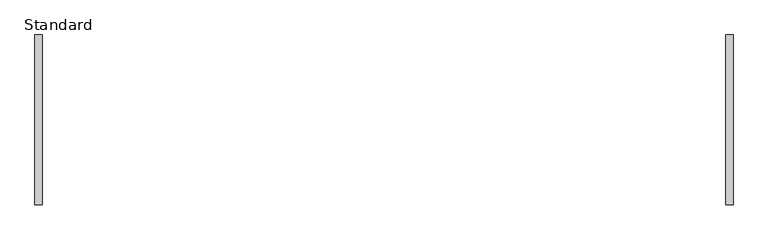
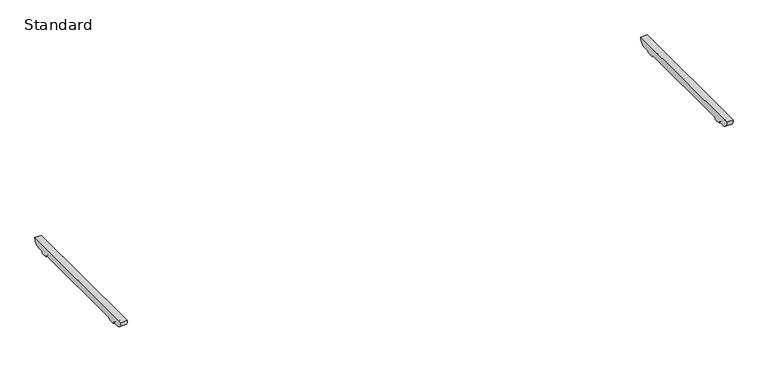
"""IFC4 building model written with IfcOpenShell, lengths in millimetres: furniture geometry, BDG_BossDesign_Tbls_AgentTables4Legs_Nested : Standard."""

from ifc_helpers import new_model, si_unit, point, frame, frame_2d, origin, place, context, project, spatial, polyline, circle_curve, trimmed, segment, composite_curve, outline, extrude, source, transform, mapped, element, save


def standard_a5c8d3ff(model_context):
    return source(origin(), model_context, "Body", "SweptSolid", [
        extrude(outline(composite_curve([segment(polyline([(480.5450184, 672.0), (442.7000122, 672.0)]), True, "CONTINUOUS"), segment(trimmed(circle_curve(frame_2d((442.7000122, 660.0)), 12.0), [point((442.7000122, 672.0))], [point((430.7000122, 660.0))], True, "CARTESIAN"), True, "CONTINUOUS"), segment(polyline([(430.7000122, 660.0), (385.7000122, 660.0)]), True, "CONTINUOUS"), segment(trimmed(circle_curve(frame_2d((373.7000122, 660.0)), 12.0), [point((385.7000122, 660.0))], [point((373.7000122, 672.0))], True, "CARTESIAN"), True, "CONTINUOUS"), segment(polyline([(373.7000122, 672.0), (-373.7000122, 672.0)]), True, "CONTINUOUS"), segment(trimmed(circle_curve(frame_2d((-373.7000122, 660.0)), 12.0), [point((-373.7000122, 672.0))], [point((-385.7000122, 660.0))], True, "CARTESIAN"), True, "CONTINUOUS"), segment(polyline([(-385.7000122, 660.0), (-430.7000122, 660.0)]), True, "CONTINUOUS"), segment(trimmed(circle_curve(frame_2d((-442.7000122, 660.0)), 12.0), [point((-430.7000122, 660.0))], [point((-442.7000122, 672.0))], True, "CARTESIAN"), True, "CONTINUOUS"), segment(polyline([(-442.7000122, 672.0), (-480.5450184, 672.0)]), True, "CONTINUOUS"), segment(trimmed(circle_curve(frame_2d((-478.2220439, 716.5514119)), 44.6119324), [point((-480.5450184, 672.0))], [point((-522.5, 722.0))], False, "CARTESIAN"), True, "CONTINUOUS"), segment(polyline([(-522.5, 722.0), (522.5, 722.0)]), True, "CONTINUOUS"), segment(trimmed(circle_curve(frame_2d((478.2220439, 716.5514119)), 44.6119324), [point((522.5, 722.0))], [point((480.5450184, 672.0))], False, "CARTESIAN"), True, "CONTINUOUS")], self_intersect=False)), frame((2105.0, 0.0, 0.0), z_axis=(1.0, 0.0, 0.0), x_axis=(0.0, 1.0, 0.0)), (0.0, 0.0, 1.0), 45.0),
        extrude(outline(composite_curve([segment(polyline([(480.5450184, 672.0), (442.7000122, 672.0)]), True, "CONTINUOUS"), segment(trimmed(circle_curve(frame_2d((442.7000122, 660.0)), 12.0), [point((442.7000122, 672.0))], [point((430.7000122, 660.0))], True, "CARTESIAN"), True, "CONTINUOUS"), segment(polyline([(430.7000122, 660.0), (385.7000122, 660.0)]), True, "CONTINUOUS"), segment(trimmed(circle_curve(frame_2d((373.7000122, 660.0)), 12.0), [point((385.7000122, 660.0))], [point((373.7000122, 672.0))], True, "CARTESIAN"), True, "CONTINUOUS"), segment(polyline([(373.7000122, 672.0), (-373.7000122, 672.0)]), True, "CONTINUOUS"), segment(trimmed(circle_curve(frame_2d((-373.7000122, 660.0)), 12.0), [point((-373.7000122, 672.0))], [point((-385.7000122, 660.0))], True, "CARTESIAN"), True, "CONTINUOUS"), segment(polyline([(-385.7000122, 660.0), (-430.7000122, 660.0)]), True, "CONTINUOUS"), segment(trimmed(circle_curve(frame_2d((-442.7000122, 660.0)), 12.0), [point((-430.7000122, 660.0))], [point((-442.7000122, 672.0))], True, "CARTESIAN"), True, "CONTINUOUS"), segment(polyline([(-442.7000122, 672.0), (-480.5450184, 672.0)]), True, "CONTINUOUS"), segment(trimmed(circle_curve(frame_2d((-478.2220439, 716.5514119)), 44.6119324), [point((-480.5450184, 672.0))], [point((-522.5, 722.0))], False, "CARTESIAN"), True, "CONTINUOUS"), segment(polyline([(-522.5, 722.0), (522.5, 722.0)]), True, "CONTINUOUS"), segment(trimmed(circle_curve(frame_2d((478.2220439, 716.5514119)), 44.6119324), [point((522.5, 722.0))], [point((480.5450184, 672.0))], False, "CARTESIAN"), True, "CONTINUOUS")], self_intersect=False)), frame((-2150.0, 0.0, 0.0), z_axis=(1.0, 0.0, 0.0), x_axis=(0.0, 1.0, 0.0)), (0.0, 0.0, 1.0), 45.0),
    ])


if __name__ == "__main__":
    model = new_model("IFC4")
    model_context = context("Model", 3, world=origin())
    ifc_project = project(units=[si_unit("LENGTHUNIT", "METRE", prefix="MILLI")], contexts=[model_context])
    site = spatial("IfcSite", under=ifc_project)
    building = spatial("IfcBuilding", under=site)
    placement = place(None, origin())
    standard_shape = standard_a5c8d3ff(model_context)
    element("IfcFurniture", 1, ObjectType="BDG_BossDesign_Tbls_AgentTables4Legs_Nested : Standard", at=placement, inside=building, context=model_context, shape_type="MappedRepresentation", body=[
        mapped(standard_shape, transform((0.0, 0.0, 0.0), x_axis=(1.0, 0.0, 0.0), y_axis=(0.0, 1.0, 0.0), z_axis=(0.0, 0.0, 1.0))),
    ])
    save(model, "model.ifc")
